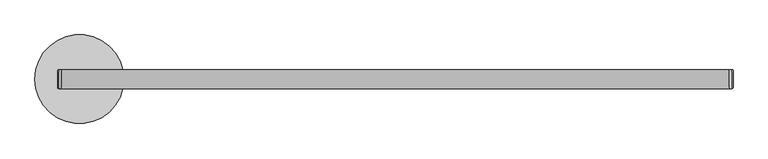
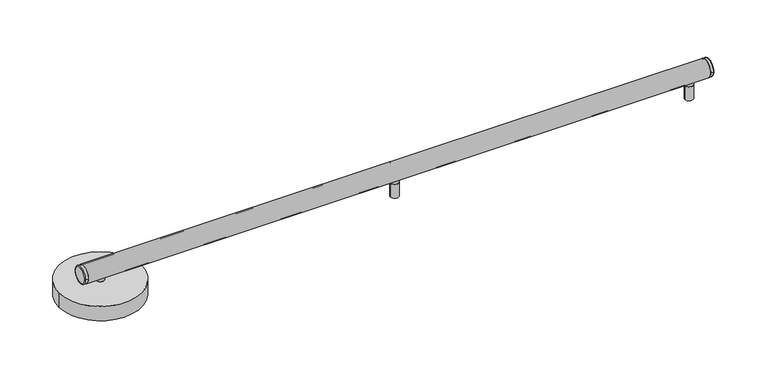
"""IFC4 building model written with IfcOpenShell, lengths in millimetres: light fixture geometry, ARTEMIDE-AoL-StandAlone-Linear_WallCeiling : StandALone_WallCeiling_Linear-1800mm 5226lm 3000K."""

from ifc_helpers import new_model, si_unit, point, frame, frame_2d, origin, origin_with_axes, place, context, project, spatial, polyline, circle_curve, ellipse_curve, trimmed, segment, composite_curve, outline, extrude, source, transform, mapped, element, save
from ifc_brep_helpers import plane_surface, cylinder_surface, revolved_surface, advanced_brep


def light_fixture_a39efccf(model_context):
    return source(origin(), model_context, "Body", "SolidModel", [
        advanced_brep(
        [(42.5, 0.0, 0.0), (53.5, 0.0, 0.0), (48.0, 0.0, 0.0), (42.5, 0.0, 1.0), (53.5, 0.0, 1.0), (36.0, 0.0, 1.0), (60.0, 0.0, 1.0), (36.0, 0.0, 42.5), (60.0, 0.0, 42.5), (38.4756244, 0.0, 42.5), (57.5243756, 0.0, 42.5), (38.4756244, 0.0, 43.4995055), (57.5243756, 0.0, 43.4995055), (36.0, 0.0, 43.4995055), (60.0, 0.0, 43.4995055), (36.0, 0.0, 52.9579379), (60.0, 0.0, 52.9579379), (48.0, 0.0, 52.9579379)],
        [
            (0, 1, circle_curve(frame((48.0, 0.0, 0.0), z_axis=(0.0, 0.0, -1.0), x_axis=(1.0, 0.0, 0.0)), 5.5)),
            (1, 2),
            (2, 0),
            (1, 0, circle_curve(frame((48.0, 0.0, 0.0), z_axis=(0.0, 0.0, -1.0), x_axis=(1.0, 0.0, 0.0)), 5.5)),
            (3, 4, circle_curve(frame((48.0, 0.0, 1.0), z_axis=(0.0, 0.0, -1.0), x_axis=(1.0, 0.0, 0.0)), 5.5)),
            (4, 1),
            (0, 3),
            (4, 3, circle_curve(frame((48.0, 0.0, 1.0), z_axis=(0.0, 0.0, -1.0), x_axis=(1.0, 0.0, 0.0)), 5.5)),
            (5, 6, circle_curve(frame((48.0, 0.0, 1.0), z_axis=(0.0, 0.0, -1.0), x_axis=(1.0, 0.0, 0.0)), 12.0)),
            (6, 4),
            (3, 5),
            (6, 5, circle_curve(frame((48.0, 0.0, 1.0), z_axis=(0.0, 0.0, -1.0), x_axis=(1.0, 0.0, 0.0)), 12.0)),
            (7, 8, circle_curve(frame((48.0, 0.0, 42.5), z_axis=(0.0, 0.0, -1.0), x_axis=(1.0, 0.0, 0.0)), 12.0)),
            (8, 6),
            (5, 7),
            (8, 7, circle_curve(frame((48.0, 0.0, 42.5), z_axis=(0.0, 0.0, -1.0), x_axis=(1.0, 0.0, 0.0)), 12.0)),
            (9, 10, circle_curve(frame((48.0, 0.0, 42.5), z_axis=(0.0, 0.0, -1.0), x_axis=(1.0, 0.0, 0.0)), 9.5243756)),
            (10, 8),
            (7, 9),
            (10, 9, circle_curve(frame((48.0, 0.0, 42.5), z_axis=(0.0, 0.0, -1.0), x_axis=(1.0, 0.0, 0.0)), 9.5243756)),
            (11, 12, circle_curve(frame((48.0, 0.0, 43.4995055), z_axis=(0.0, 0.0, -1.0), x_axis=(1.0, 0.0, 0.0)), 9.5243756)),
            (12, 10),
            (9, 11),
            (12, 11, circle_curve(frame((48.0, 0.0, 43.4995055), z_axis=(0.0, 0.0, -1.0), x_axis=(1.0, 0.0, 0.0)), 9.5243756)),
            (13, 14, circle_curve(frame((48.0, 0.0, 43.4995055), z_axis=(0.0, 0.0, -1.0), x_axis=(1.0, 0.0, 0.0)), 12.0)),
            (14, 12),
            (11, 13),
            (14, 13, circle_curve(frame((48.0, 0.0, 43.4995055), z_axis=(0.0, 0.0, -1.0), x_axis=(1.0, 0.0, 0.0)), 12.0)),
            (15, 16, circle_curve(frame((48.0, 0.0, 52.9579379), z_axis=(0.0, 0.0, -1.0), x_axis=(1.0, 0.0, 0.0)), 12.0)),
            (16, 14),
            (13, 15),
            (16, 15, circle_curve(frame((48.0, 0.0, 52.9579379), z_axis=(0.0, 0.0, -1.0), x_axis=(1.0, 0.0, 0.0)), 12.0)),
            (17, 16),
            (15, 17),
        ],
        [
            plane_surface(frame((48.0, 0.0, 0.0), z_axis=(0.0, 0.0, -1.0), x_axis=(1.0, 0.0, 0.0))),
            cylinder_surface(frame((48.0, 0.0, -58.83358), z_axis=(0.0, 0.0, 1.0), x_axis=(1.0, 0.0, 0.0)), 5.5),
            plane_surface(frame((48.0, 0.0, 1.0), z_axis=(0.0, 0.0, -1.0), x_axis=(1.0, 0.0, 0.0))),
            cylinder_surface(frame((48.0, 0.0, -58.83358), z_axis=(0.0, 0.0, 1.0), x_axis=(1.0, 0.0, 0.0)), 12.0),
            plane_surface(frame((48.0, 0.0, 42.5), z_axis=(0.0, 0.0, 1.0), x_axis=(1.0, 0.0, 0.0))),
            cylinder_surface(frame((48.0, 0.0, -58.83358), z_axis=(0.0, 0.0, 1.0), x_axis=(1.0, 0.0, 0.0)), 9.5243756),
            plane_surface(frame((48.0, 0.0, 43.4995055), z_axis=(0.0, 0.0, -1.0), x_axis=(1.0, 0.0, 0.0))),
            plane_surface(frame((48.0, 0.0, 52.9579379), z_axis=(0.0, 0.0, 1.0), x_axis=(1.0, 0.0, 0.0))),
        ],
        [
            (0, [[1, 2, 3]]),
            (0, [[4, -3, -2]]),
            (1, [[5, 6, -1, 7]]),
            (1, [[8, -7, -4, -6]]),
            (2, [[9, 10, -5, 11]]),
            (2, [[12, -11, -8, -10]]),
            (3, [[13, 14, -9, 15]]),
            (3, [[16, -15, -12, -14]]),
            (4, [[17, 18, -13, 19]]),
            (4, [[20, -19, -16, -18]]),
            (5, [[21, 22, -17, 23]]),
            (5, [[24, -23, -20, -22]]),
            (6, [[25, 26, -21, 27]]),
            (6, [[28, -27, -24, -26]]),
            (3, [[29, 30, -25, 31]]),
            (3, [[32, -31, -28, -30]]),
            (7, [[33, -29, 34]]),
            (7, [[-34, -32, -33]]),
        ],
    ),
        advanced_brep(
        [(1726.5, 0.0, 0.0), (1737.5, 0.0, 0.0), (1732.0, 0.0, 0.0), (1726.5, 0.0, 1.0), (1737.5, 0.0, 1.0), (1720.0, 0.0, 1.0), (1744.0, 0.0, 1.0), (1720.0, 0.0, 42.5), (1744.0, 0.0, 42.5), (1722.4756244, 0.0, 42.5), (1741.5243756, 0.0, 42.5), (1722.4756244, 0.0, 43.4995055), (1741.5243756, 0.0, 43.4995055), (1720.0, 0.0, 43.4995055), (1744.0, 0.0, 43.4995055), (1720.0, 0.0, 52.9579379), (1744.0, 0.0, 52.9579379), (1732.0, 0.0, 52.9579379)],
        [
            (0, 1, circle_curve(frame((1732.0, 0.0, 0.0), z_axis=(0.0, 0.0, -1.0), x_axis=(1.0, 0.0, 0.0)), 5.5)),
            (1, 2),
            (2, 0),
            (1, 0, circle_curve(frame((1732.0, 0.0, 0.0), z_axis=(0.0, 0.0, -1.0), x_axis=(1.0, 0.0, 0.0)), 5.5)),
            (3, 4, circle_curve(frame((1732.0, 0.0, 1.0), z_axis=(0.0, 0.0, -1.0), x_axis=(1.0, 0.0, 0.0)), 5.5)),
            (4, 1),
            (0, 3),
            (4, 3, circle_curve(frame((1732.0, 0.0, 1.0), z_axis=(0.0, 0.0, -1.0), x_axis=(1.0, 0.0, 0.0)), 5.5)),
            (5, 6, circle_curve(frame((1732.0, 0.0, 1.0), z_axis=(0.0, 0.0, -1.0), x_axis=(1.0, 0.0, 0.0)), 12.0)),
            (6, 4),
            (3, 5),
            (6, 5, circle_curve(frame((1732.0, 0.0, 1.0), z_axis=(0.0, 0.0, -1.0), x_axis=(1.0, 0.0, 0.0)), 12.0)),
            (7, 8, circle_curve(frame((1732.0, 0.0, 42.5), z_axis=(0.0, 0.0, -1.0), x_axis=(1.0, 0.0, 0.0)), 12.0)),
            (8, 6),
            (5, 7),
            (8, 7, circle_curve(frame((1732.0, 0.0, 42.5), z_axis=(0.0, 0.0, -1.0), x_axis=(1.0, 0.0, 0.0)), 12.0)),
            (9, 10, circle_curve(frame((1732.0, 0.0, 42.5), z_axis=(0.0, 0.0, -1.0), x_axis=(1.0, 0.0, 0.0)), 9.5243756)),
            (10, 8),
            (7, 9),
            (10, 9, circle_curve(frame((1732.0, 0.0, 42.5), z_axis=(0.0, 0.0, -1.0), x_axis=(1.0, 0.0, 0.0)), 9.5243756)),
            (11, 12, circle_curve(frame((1732.0, 0.0, 43.4995055), z_axis=(0.0, 0.0, -1.0), x_axis=(1.0, 0.0, 0.0)), 9.5243756)),
            (12, 10),
            (9, 11),
            (12, 11, circle_curve(frame((1732.0, 0.0, 43.4995055), z_axis=(0.0, 0.0, -1.0), x_axis=(1.0, 0.0, 0.0)), 9.5243756)),
            (13, 14, circle_curve(frame((1732.0, 0.0, 43.4995055), z_axis=(0.0, 0.0, -1.0), x_axis=(1.0, 0.0, 0.0)), 12.0)),
            (14, 12),
            (11, 13),
            (14, 13, circle_curve(frame((1732.0, 0.0, 43.4995055), z_axis=(0.0, 0.0, -1.0), x_axis=(1.0, 0.0, 0.0)), 12.0)),
            (15, 16, circle_curve(frame((1732.0, 0.0, 52.9579379), z_axis=(0.0, 0.0, -1.0), x_axis=(1.0, 0.0, 0.0)), 12.0)),
            (16, 14),
            (13, 15),
            (16, 15, circle_curve(frame((1732.0, 0.0, 52.9579379), z_axis=(0.0, 0.0, -1.0), x_axis=(1.0, 0.0, 0.0)), 12.0)),
            (17, 16),
            (15, 17),
        ],
        [
            plane_surface(frame((1732.0, 0.0, 0.0), z_axis=(0.0, 0.0, -1.0), x_axis=(1.0, 0.0, 0.0))),
            cylinder_surface(frame((1732.0, 0.0, -58.83358), z_axis=(0.0, 0.0, 1.0), x_axis=(1.0, 0.0, 0.0)), 5.5),
            plane_surface(frame((1732.0, 0.0, 1.0), z_axis=(0.0, 0.0, -1.0), x_axis=(1.0, 0.0, 0.0))),
            cylinder_surface(frame((1732.0, 0.0, -58.83358), z_axis=(0.0, 0.0, 1.0), x_axis=(1.0, 0.0, 0.0)), 12.0),
            plane_surface(frame((1732.0, 0.0, 42.5), z_axis=(0.0, 0.0, 1.0), x_axis=(1.0, 0.0, 0.0))),
            cylinder_surface(frame((1732.0, 0.0, -58.83358), z_axis=(0.0, 0.0, 1.0), x_axis=(1.0, 0.0, 0.0)), 9.5243756),
            plane_surface(frame((1732.0, 0.0, 43.4995055), z_axis=(0.0, 0.0, -1.0), x_axis=(1.0, 0.0, 0.0))),
            plane_surface(frame((1732.0, 0.0, 52.9579379), z_axis=(0.0, 0.0, 1.0), x_axis=(1.0, 0.0, 0.0))),
        ],
        [
            (0, [[1, 2, 3]]),
            (0, [[4, -3, -2]]),
            (1, [[5, 6, -1, 7]]),
            (1, [[8, -7, -4, -6]]),
            (2, [[9, 10, -5, 11]]),
            (2, [[12, -11, -8, -10]]),
            (3, [[13, 14, -9, 15]]),
            (3, [[16, -15, -12, -14]]),
            (4, [[17, 18, -13, 19]]),
            (4, [[20, -19, -16, -18]]),
            (5, [[21, 22, -17, 23]]),
            (5, [[24, -23, -20, -22]]),
            (6, [[25, 26, -21, 27]]),
            (6, [[28, -27, -24, -26]]),
            (3, [[29, 30, -25, 31]]),
            (3, [[32, -31, -28, -30]]),
            (7, [[33, -29, 34]]),
            (7, [[-34, -32, -33]]),
        ],
    ),
        advanced_brep(
        [(884.5, 0.0, 0.0), (895.5, 0.0, 0.0), (890.0, 0.0, 0.0), (884.5, 0.0, 1.0), (895.5, 0.0, 1.0), (878.0, 0.0, 1.0), (902.0, 0.0, 1.0), (878.0, 0.0, 42.5), (902.0, 0.0, 42.5), (880.4756244, 0.0, 42.5), (899.5243756, 0.0, 42.5), (880.4756244, 0.0, 43.4995055), (899.5243756, 0.0, 43.4995055), (878.0, 0.0, 43.4995055), (902.0, 0.0, 43.4995055), (878.0, 0.0, 52.9579379), (902.0, 0.0, 52.9579379), (890.0, 0.0, 52.9579379)],
        [
            (0, 1, circle_curve(frame((890.0, 0.0, 0.0), z_axis=(0.0, 0.0, -1.0), x_axis=(1.0, 0.0, 0.0)), 5.5)),
            (1, 2),
            (2, 0),
            (1, 0, circle_curve(frame((890.0, 0.0, 0.0), z_axis=(0.0, 0.0, -1.0), x_axis=(1.0, 0.0, 0.0)), 5.5)),
            (3, 4, circle_curve(frame((890.0, 0.0, 1.0), z_axis=(0.0, 0.0, -1.0), x_axis=(1.0, 0.0, 0.0)), 5.5)),
            (4, 1),
            (0, 3),
            (4, 3, circle_curve(frame((890.0, 0.0, 1.0), z_axis=(0.0, 0.0, -1.0), x_axis=(1.0, 0.0, 0.0)), 5.5)),
            (5, 6, circle_curve(frame((890.0, 0.0, 1.0), z_axis=(0.0, 0.0, -1.0), x_axis=(1.0, 0.0, 0.0)), 12.0)),
            (6, 4),
            (3, 5),
            (6, 5, circle_curve(frame((890.0, 0.0, 1.0), z_axis=(0.0, 0.0, -1.0), x_axis=(1.0, 0.0, 0.0)), 12.0)),
            (7, 8, circle_curve(frame((890.0, 0.0, 42.5), z_axis=(0.0, 0.0, -1.0), x_axis=(1.0, 0.0, 0.0)), 12.0)),
            (8, 6),
            (5, 7),
            (8, 7, circle_curve(frame((890.0, 0.0, 42.5), z_axis=(0.0, 0.0, -1.0), x_axis=(1.0, 0.0, 0.0)), 12.0)),
            (9, 10, circle_curve(frame((890.0, 0.0, 42.5), z_axis=(0.0, 0.0, -1.0), x_axis=(1.0, 0.0, 0.0)), 9.5243756)),
            (10, 8),
            (7, 9),
            (10, 9, circle_curve(frame((890.0, 0.0, 42.5), z_axis=(0.0, 0.0, -1.0), x_axis=(1.0, 0.0, 0.0)), 9.5243756)),
            (11, 12, circle_curve(frame((890.0, 0.0, 43.4995055), z_axis=(0.0, 0.0, -1.0), x_axis=(1.0, 0.0, 0.0)), 9.5243756)),
            (12, 10),
            (9, 11),
            (12, 11, circle_curve(frame((890.0, 0.0, 43.4995055), z_axis=(0.0, 0.0, -1.0), x_axis=(1.0, 0.0, 0.0)), 9.5243756)),
            (13, 14, circle_curve(frame((890.0, 0.0, 43.4995055), z_axis=(0.0, 0.0, -1.0), x_axis=(1.0, 0.0, 0.0)), 12.0)),
            (14, 12),
            (11, 13),
            (14, 13, circle_curve(frame((890.0, 0.0, 43.4995055), z_axis=(0.0, 0.0, -1.0), x_axis=(1.0, 0.0, 0.0)), 12.0)),
            (15, 16, circle_curve(frame((890.0, 0.0, 52.9579379), z_axis=(0.0, 0.0, -1.0), x_axis=(1.0, 0.0, 0.0)), 12.0)),
            (16, 14),
            (13, 15),
            (16, 15, circle_curve(frame((890.0, 0.0, 52.9579379), z_axis=(0.0, 0.0, -1.0), x_axis=(1.0, 0.0, 0.0)), 12.0)),
            (17, 16),
            (15, 17),
        ],
        [
            plane_surface(frame((890.0, 0.0, 0.0), z_axis=(0.0, 0.0, -1.0), x_axis=(1.0, 0.0, 0.0))),
            cylinder_surface(frame((890.0, 0.0, -58.83358), z_axis=(0.0, 0.0, 1.0), x_axis=(1.0, 0.0, 0.0)), 5.5),
            plane_surface(frame((890.0, 0.0, 1.0), z_axis=(0.0, 0.0, -1.0), x_axis=(1.0, 0.0, 0.0))),
            cylinder_surface(frame((890.0, 0.0, -58.83358), z_axis=(0.0, 0.0, 1.0), x_axis=(1.0, 0.0, 0.0)), 12.0),
            plane_surface(frame((890.0, 0.0, 42.5), z_axis=(0.0, 0.0, 1.0), x_axis=(1.0, 0.0, 0.0))),
            cylinder_surface(frame((890.0, 0.0, -58.83358), z_axis=(0.0, 0.0, 1.0), x_axis=(1.0, 0.0, 0.0)), 9.5243756),
            plane_surface(frame((890.0, 0.0, 43.4995055), z_axis=(0.0, 0.0, -1.0), x_axis=(1.0, 0.0, 0.0))),
            plane_surface(frame((890.0, 0.0, 52.9579379), z_axis=(0.0, 0.0, 1.0), x_axis=(1.0, 0.0, 0.0))),
        ],
        [
            (0, [[1, 2, 3]]),
            (0, [[4, -3, -2]]),
            (1, [[5, 6, -1, 7]]),
            (1, [[8, -7, -4, -6]]),
            (2, [[9, 10, -5, 11]]),
            (2, [[12, -11, -8, -10]]),
            (3, [[13, 14, -9, 15]]),
            (3, [[16, -15, -12, -14]]),
            (4, [[17, 18, -13, 19]]),
            (4, [[20, -19, -16, -18]]),
            (5, [[21, 22, -17, 23]]),
            (5, [[24, -23, -20, -22]]),
            (6, [[25, 26, -21, 27]]),
            (6, [[28, -27, -24, -26]]),
            (3, [[29, 30, -25, 31]]),
            (3, [[32, -31, -28, -30]]),
            (7, [[33, -29, 34]]),
            (7, [[-34, -32, -33]]),
        ],
    ),
        advanced_brep(
        [(-10.0, 22.0, 75.0), (-10.0, -22.0, 75.0), (0.0, 25.0, 75.0), (0.0, -25.0, 75.0), (-7.0, -25.0, 75.0), (-7.0, 25.0, 75.0)],
        [
            (0, 1, circle_curve(frame((-10.0, 0.0, 75.0), z_axis=(-1.0, 0.0, 0.0), x_axis=(0.0, -1.0, 0.0)), 22.0)),
            (1, 0, circle_curve(frame((-10.0, 0.0, 75.0), z_axis=(-1.0, 0.0, 0.0), x_axis=(0.0, 1.0, 0.0)), 22.0)),
            (2, 3, circle_curve(frame((0.0, 0.0, 75.0), z_axis=(1.0, 0.0, 0.0), x_axis=(0.0, -1.0, 0.0)), 25.0)),
            (3, 2, circle_curve(frame((0.0, 0.0, 75.0), z_axis=(1.0, 0.0, 0.0), x_axis=(0.0, -1.0, 0.0)), 25.0)),
            (3, 4),
            (4, 5, circle_curve(frame((-7.0, 0.0, 75.0), z_axis=(1.0, 0.0, 0.0), x_axis=(0.0, -1.0, 0.0)), 25.0)),
            (5, 2),
            (5, 4, circle_curve(frame((-7.0, 0.0, 75.0), z_axis=(1.0, 0.0, 0.0), x_axis=(0.0, -1.0, 0.0)), 25.0)),
            (0, 5, circle_curve(frame((-7.0, 22.0, 75.0), z_axis=(0.0, 0.0, -1.0), x_axis=(0.0, 1.0, 0.0)), 3.0)),
            (4, 1, circle_curve(frame((-7.0, -22.0, 75.0), z_axis=(0.0, 0.0, -1.0), x_axis=(0.0, -1.0, 0.0)), 3.0)),
        ],
        [
            plane_surface(frame((-10.0, -25.0, 75.0), z_axis=(-1.0, 0.0, 0.0), x_axis=(0.0, 0.0, 1.0))),
            plane_surface(frame((0.0, -25.0, 75.0), z_axis=(1.0, 0.0, 0.0), x_axis=(0.0, 0.0, -1.0))),
            cylinder_surface(frame((0.0, 0.0, 75.0), z_axis=(-1.0, 0.0, 0.0), x_axis=(0.0, -1.0, 0.0)), 25.0),
            revolved_surface(trimmed(ellipse_curve(frame((-7.0, -22.0, 75.0), z_axis=(0.0, 0.0, 1.0), x_axis=(0.0, -1.0, 0.0)), 3.0, 3.0), [point((-10.0, -22.0, 75.0))], [point((-7.0, -25.0, 75.0))], True, "CARTESIAN"), (-10.0, 0.0, 75.0), (1.0, 0.0, 0.0)),
            revolved_surface(trimmed(ellipse_curve(frame((-7.0, 22.0, 75.0), z_axis=(0.0, 0.0, -1.0), x_axis=(0.0, 1.0, 0.0)), 3.0, 3.0), [point((-10.0, 22.0, 75.0))], [point((-7.0, 25.0, 75.0))], True, "CARTESIAN"), (-10.0, 0.0, 75.0), (1.0, 0.0, 0.0)),
        ],
        [
            (0, [[1, 2]]),
            (1, [[3, 4]]),
            (2, [[-4, 5, 6, 7]]),
            (2, [[-3, -7, 8, -5]]),
            (3, [[9, -6, 10, -1]]),
            (4, [[-9, -2, -10, -8]]),
        ],
    ),
        advanced_brep(
        [(1790.0, -22.0, 75.0), (1790.0, 22.0, 75.0), (1780.0, 25.0, 75.0), (1780.0, -25.0, 75.0), (1787.0, -25.0, 75.0), (1787.0, 25.0, 75.0)],
        [
            (0, 1, circle_curve(frame((1790.0, 0.0, 75.0), z_axis=(1.0, 0.0, 0.0), x_axis=(0.0, 1.0, 0.0)), 22.0)),
            (1, 0, circle_curve(frame((1790.0, 0.0, 75.0), z_axis=(1.0, 0.0, 0.0), x_axis=(0.0, -1.0, 0.0)), 22.0)),
            (2, 3, circle_curve(frame((1780.0, 0.0, 75.0), z_axis=(-1.0, 0.0, 0.0), x_axis=(0.0, 0.0, 1.0)), 25.0)),
            (3, 2, circle_curve(frame((1780.0, 0.0, 75.0), z_axis=(-1.0, 0.0, 0.0), x_axis=(0.0, 0.0, 1.0)), 25.0)),
            (3, 4),
            (4, 5, circle_curve(frame((1787.0, 0.0, 75.0), z_axis=(-1.0, 0.0, 0.0), x_axis=(0.0, 0.0, 1.0)), 25.0)),
            (5, 2),
            (5, 4, circle_curve(frame((1787.0, 0.0, 75.0), z_axis=(-1.0, 0.0, 0.0), x_axis=(0.0, 0.0, 1.0)), 25.0)),
            (0, 4, circle_curve(frame((1787.0, -22.0, 75.0), z_axis=(0.0, 0.0, -1.0), x_axis=(0.0, -1.0, 0.0)), 3.0)),
            (5, 1, circle_curve(frame((1787.0, 22.0, 75.0), z_axis=(0.0, 0.0, -1.0), x_axis=(0.0, 1.0, 0.0)), 3.0)),
        ],
        [
            plane_surface(frame((1790.0, 0.0, 100.0), z_axis=(1.0, 0.0, 0.0), x_axis=(0.0, -1.0, 0.0))),
            plane_surface(frame((1780.0, 0.0, 100.0), z_axis=(-1.0, 0.0, 0.0), x_axis=(0.0, 1.0, 0.0))),
            cylinder_surface(frame((1780.0, 0.0, 75.0), z_axis=(1.0, 0.0, 0.0), x_axis=(0.0, 0.0, 1.0)), 25.0),
            revolved_surface(trimmed(ellipse_curve(frame((1787.0, 22.0, 75.0), z_axis=(0.0, 0.0, 1.0), x_axis=(0.0, 1.0, 0.0)), 3.0, 3.0), [point((1790.0, 22.0, 75.0))], [point((1787.0, 25.0, 75.0))], True, "CARTESIAN"), (1790.0, 0.0, 75.0), (-1.0, 0.0, 0.0)),
            revolved_surface(trimmed(ellipse_curve(frame((1787.0, -22.0, 75.0), z_axis=(0.0, 0.0, -1.0), x_axis=(0.0, -1.0, 0.0)), 3.0, 3.0), [point((1790.0, -22.0, 75.0))], [point((1787.0, -25.0, 75.0))], True, "CARTESIAN"), (1790.0, 0.0, 75.0), (-1.0, 0.0, 0.0)),
        ],
        [
            (0, [[1, 2]]),
            (1, [[3, 4]]),
            (2, [[-4, 5, 6, 7]]),
            (2, [[-3, -7, 8, -5]]),
            (3, [[9, -8, 10, -1]]),
            (4, [[-9, -2, -10, -6]]),
        ],
    ),
        extrude(outline(composite_curve([segment(trimmed(circle_curve(frame_2d((0.0, 75.0)), 25.0), [point((-11.75, 52.9333396))], [point((11.75, 52.9333396))], False, "CARTESIAN"), True, "CONTINUOUS"), segment(polyline([(11.75, 52.9333396), (11.75, 57.259212), (13.667754, 57.259212), (13.667754, 55.8288843), (15.617754, 57.2440748), (15.617754, 59.244074), (12.667754, 59.244074), (12.667754, 60.744074), (17.2779794, 60.744074)]), True, "CONTINUOUS"), segment(trimmed(circle_curve(frame_2d((0.0, 75.0)), 22.4), [point((17.2779794, 60.744074))], [point((-17.2779794, 60.744074))], True, "CARTESIAN"), True, "CONTINUOUS"), segment(polyline([(-17.2779794, 60.744074), (-12.667754, 60.744074), (-12.667754, 59.244074), (-15.617754, 59.244074), (-15.617754, 57.2440748), (-13.667754, 55.8288843), (-13.667754, 57.259212), (-11.75, 57.259212), (-11.75, 52.9333396)]), True, "CONTINUOUS")], self_intersect=False)), frame((0.0, 0.0, 0.0), z_axis=(1.0, 0.0, 0.0), x_axis=(0.0, 1.0, 0.0)), (0.0, 0.0, 1.0), 1780.0),
        extrude(outline(composite_curve([segment(trimmed(circle_curve(frame_2d((0.0, 75.0)), 25.0), [point((11.75, 52.9333396))], [point((-11.75, 52.9333396))], False, "CARTESIAN"), True, "CONTINUOUS"), segment(polyline([(-11.75, 52.9333396), (-11.75, 57.259212), (-15.304087, 57.259212), (-15.304087, 58.785971), (-9.5062575, 58.785971), (-9.5062575, 64.4273482), (9.5062575, 64.4273482), (9.5062575, 58.785971), (15.304087, 58.785971), (15.304087, 57.259212), (11.75, 57.259212), (11.75, 52.9333396)]), True, "CONTINUOUS")], self_intersect=False)), frame((0.0, 0.0, 0.0), z_axis=(1.0, 0.0, 0.0), x_axis=(0.0, 1.0, 0.0)), (0.0, 0.0, 1.0), 1780.0),
        extrude(outline(composite_curve([segment(trimmed(circle_curve(frame_2d((48.0, 0.0)), 118.5), [point((166.5, 0.0))], [point((-70.5, 0.0))], False, "CARTESIAN"), True, "CONTINUOUS"), segment(trimmed(circle_curve(frame_2d((48.0, 0.0)), 118.5), [point((-70.5, 0.0))], [point((166.5, 0.0))], False, "CARTESIAN"), True, "CONTINUOUS")], self_intersect=False)), origin_with_axes(), (0.0, 0.0, 1.0), 43.0),
    ])


if __name__ == "__main__":
    model = new_model("IFC4")
    model_context = context("Model", 3, world=origin())
    ifc_project = project(units=[si_unit("LENGTHUNIT", "METRE", prefix="MILLI")], contexts=[model_context])
    site = spatial("IfcSite", under=ifc_project)
    building = spatial("IfcBuilding", under=site)
    placement = place(None, origin())
    light_fixture_shape = light_fixture_a39efccf(model_context)
    element("IfcLightFixture", 1, ObjectType="ARTEMIDE-AoL-StandAlone-Linear_WallCeiling : StandALone_WallCeiling_Linear-1800mm 5226lm 3000K", at=placement, inside=building, context=model_context, shape_type="MappedRepresentation", body=[
        mapped(light_fixture_shape, transform((0.0, 0.0, 0.0), x_axis=(1.0, 0.0, 0.0), y_axis=(0.0, 1.0, 0.0), z_axis=(0.0, 0.0, 1.0))),
    ])
    save(model, "model.ifc")
